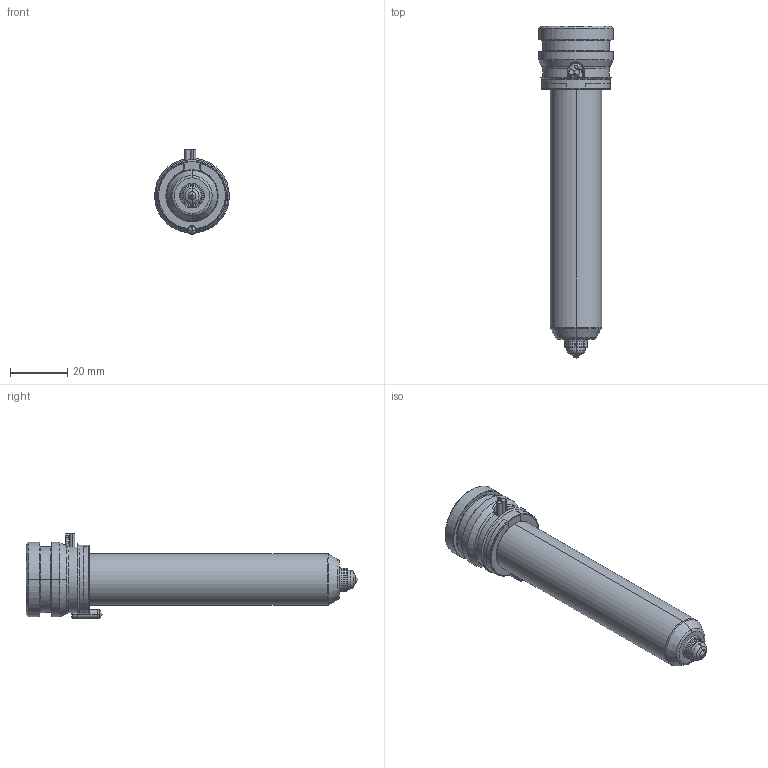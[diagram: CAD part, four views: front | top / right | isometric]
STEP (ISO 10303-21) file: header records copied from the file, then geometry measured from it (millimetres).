
FILE_DESCRIPTION((''),'2;1');
FILE_NAME('TH18097_5-A-1B15-PK-JG','2023-12-14T',('umhib'),('Thermoplay S.p.A.'),'PRO/ENGINEER BY PARAMETRIC TECHNOLOGY CORPORATION, 2017170','PRO/ENGINEER BY PARAMETRIC TECHNOLOGY CORPORATION, 2017170','');
FILE_SCHEMA(('CONFIG_CONTROL_DESIGN'));
Length unit declared in the file: millimetre
Products named in the file (1): TH18097_5-A-1B15-PK-JG
Bounding box: 26 x 115.5 x 29.5 mm (x, y, z)
Volume: 24113.5 mm3; surface area: 17572.6 mm2
Topology: 1 solids, 2 shells, 398 faces, 1036 edges, 643 vertices
Faces by surface type: cylinder 151, plane 85, cone 68, torus 56, bspline 24, sphere 12, extrusion 2
Entity records: 18089 total; most frequent: CARTESIAN_POINT 6121, ORIENTED_EDGE 2048, DIRECTION 2033, EDGE_CURVE 1026, AXIS2_PLACEMENT_3D 816, VERTEX_POINT 643, CIRCLE 443, EDGE_LOOP 418
